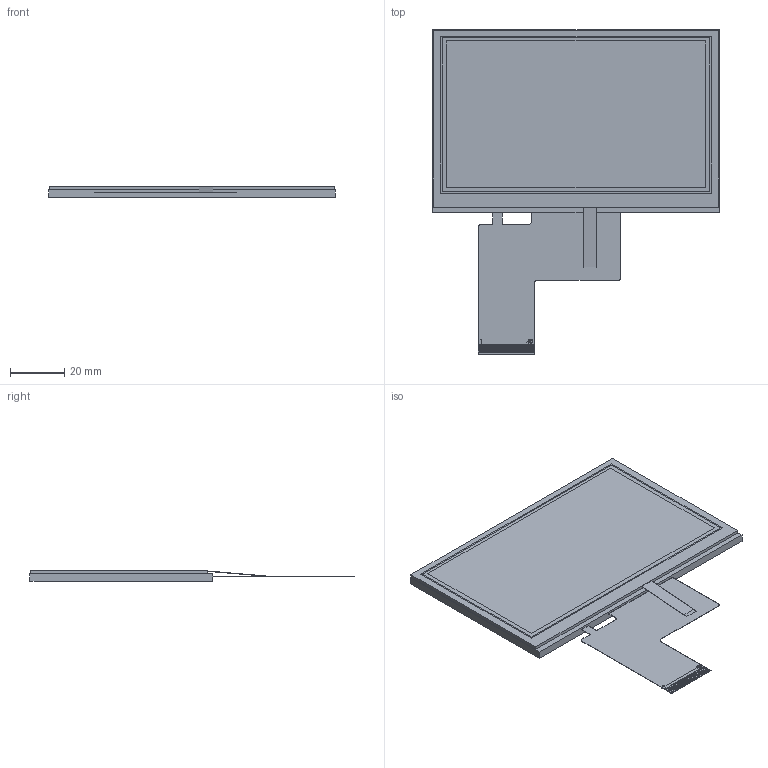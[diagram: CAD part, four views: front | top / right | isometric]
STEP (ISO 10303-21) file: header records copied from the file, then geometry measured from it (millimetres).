
FILE_DESCRIPTION (( 'STEP AP214' ), '1' );
FILE_NAME ('CFAF800480H0-043SR.STEP', '2023-02-07T22:57:33', ( '' ), ( '' ), 'SwSTEP 2.0', 'SolidWorks 2021', '' );
FILE_SCHEMA (( 'AUTOMOTIVE_DESIGN' ));
Length unit declared in the file: millimetre
Products named in the file (3): CFAF800480H0-043SR; CFAF800480H0-043SN; CFAF800480H0-043SR touchscreen
Assembly tree (2 placements, depth 2):
  CFAF800480H0-043SR
    CFAF800480H0-043SR touchscreen
    CFAF800480H0-043SN
Bounding box: 105.5 x 119.15 x 4 mm (x, y, z)
Volume: 28288.5 mm3; surface area: 33232.7 mm2
Topology: 4 solids, 4 shells, 239 faces, 680 edges, 460 vertices
Faces by surface type: plane 226, bspline 9, cylinder 4
Entity records: 10560 total; most frequent: CARTESIAN_POINT 2169, ORIENTED_EDGE 1360, DIRECTION 1140, EDGE_CURVE 680, VECTOR 654, LINE 654, VERTEX_POINT 460, EDGE_LOOP 250
